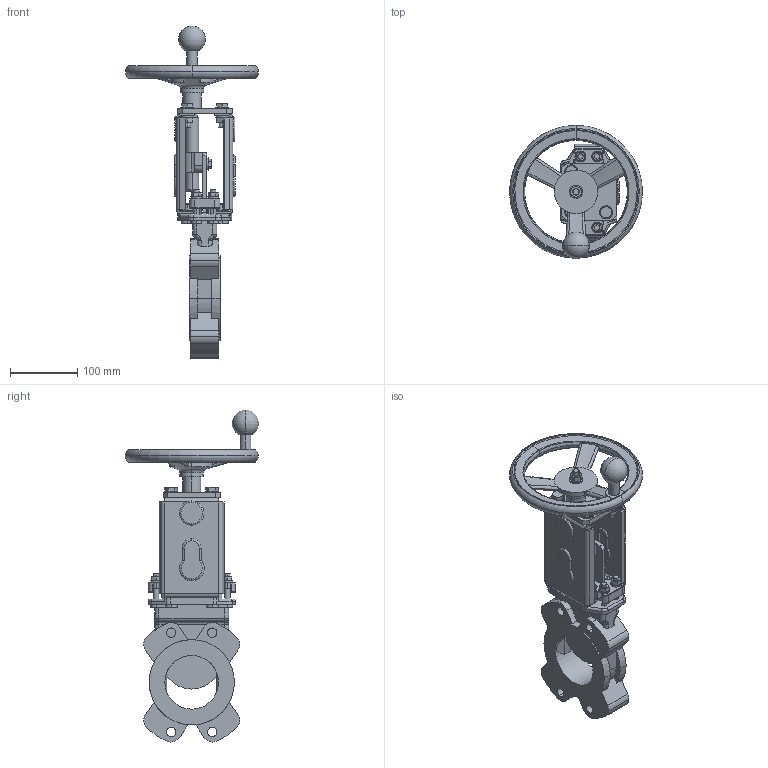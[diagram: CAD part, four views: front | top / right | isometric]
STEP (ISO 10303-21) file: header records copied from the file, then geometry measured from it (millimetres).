
FILE_DESCRIPTION(('STEP AP203'),'1');
FILE_NAME('G:/KONSTRUK/3-d block för CD/WB VALVE/HAND WHEEL/80/WB11-DN80-HW.stp','2012-11-30T12:41:50',(' '),(' '),'Spatial InterOp 3D',' ',' ');
FILE_SCHEMA(('CONFIG_CONTROL_DESIGN'));
Length unit declared in the file: millimetre
Products named in the file (7): 1; 2; 3; 4; 5; 6; 7
Bounding box: 198 x 198.8 x 494.4 mm (x, y, z)
Volume: 1507859.5 mm3; surface area: 349078 mm2
Topology: 7 solids, 15 shells, 1264 faces, 3074 edges, 1915 vertices
Faces by surface type: plane 481, cylinder 374, cone 281, torus 94, sphere 18, bspline 16
Entity records: 43337 total; most frequent: CARTESIAN_POINT 13274, DIRECTION 6429, ORIENTED_EDGE 6112, EDGE_CURVE 3056, AXIS2_PLACEMENT_3D 2580, VERTEX_POINT 1915, EDGE_LOOP 1395, CIRCLE 1313
